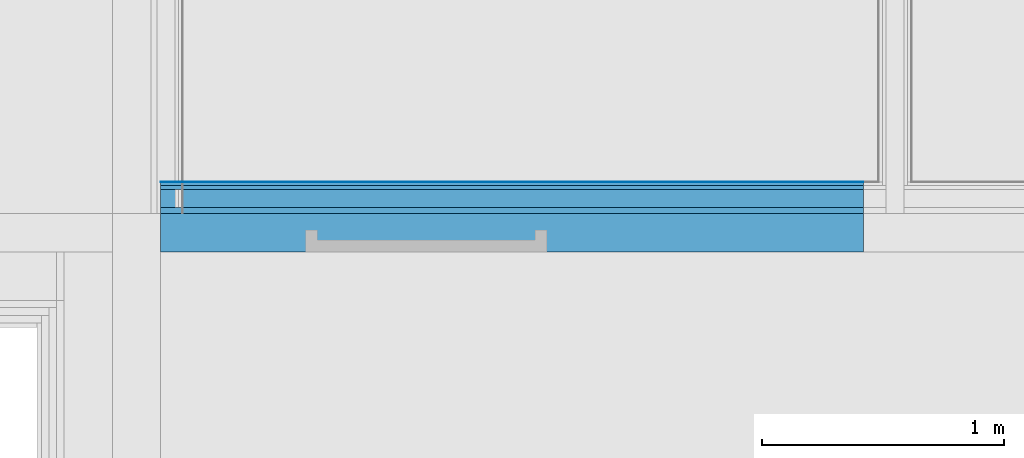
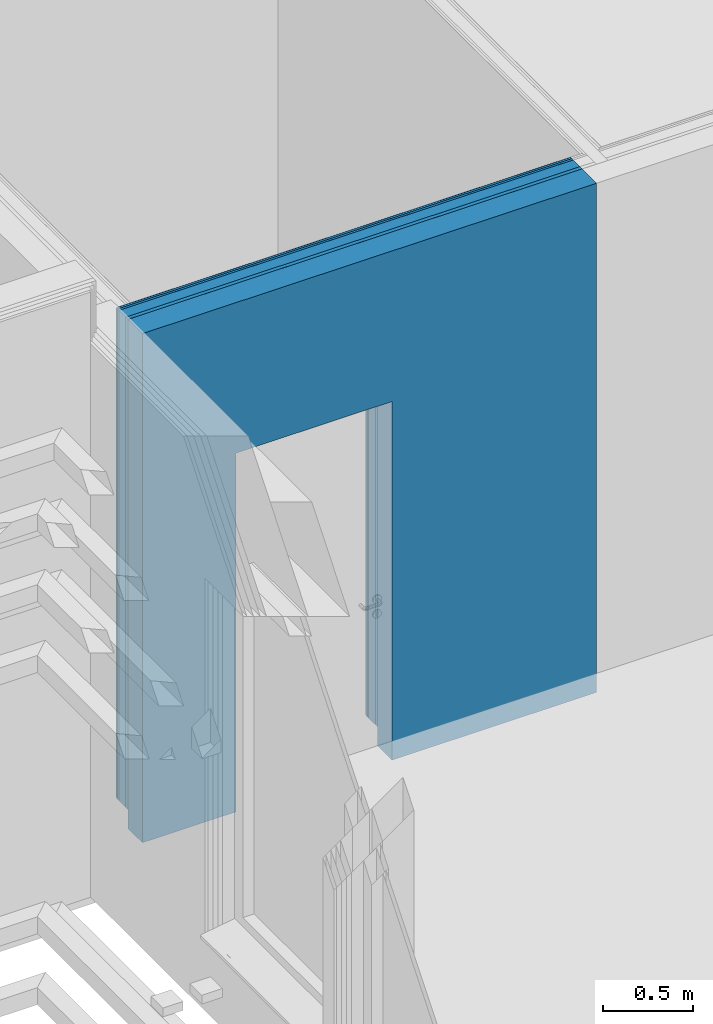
# One storey, part 86 of 139: 6 building element parts, 1 opening, 1 element without a shape of its own.
"""IFC2X3 building model written with IfcOpenShell, lengths in millimetres."""

from ifc_helpers import new_model, entity, si_unit, converted_unit, derived_unit, money_unit, direction, frame, origin_with_axes, place, context, subcontext, project, spatial, faceted_brep, material, type_object, element, aggregate, save


model = new_model("IFC2X3")

# Units and contexts
model_context = context("Model", 3, precision=0.01, world=origin_with_axes(), true_north=direction((0.0, 1.0)))
body_context = subcontext(model_context, "Body", "Model", "MODEL_VIEW")
ifc_project = project(units=[si_unit("LENGTHUNIT", "METRE", prefix="MILLI"), si_unit("AREAUNIT", "SQUARE_METRE"), si_unit("VOLUMEUNIT", "CUBIC_METRE"), converted_unit("PLANEANGLEUNIT", "DEGREE", entity("IfcPlaneAngleMeasure", 0.0174532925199), si_unit("PLANEANGLEUNIT", "RADIAN"), dimensions=[0, 0, 0, 0, 0, 0, 0]), money_unit("EUR"), converted_unit("TIMEUNIT", "Year", entity("IfcTimeMeasure", 31556926.0), si_unit("TIMEUNIT", "SECOND"), dimensions=[0, 0, 1, 0, 0, 0, 0]), si_unit("MASSUNIT", "GRAM", prefix="KILO"), si_unit("THERMODYNAMICTEMPERATUREUNIT", "DEGREE_CELSIUS"), si_unit("LUMINOUSINTENSITYUNIT", "LUMEN"), si_unit("ENERGYUNIT", "JOULE", prefix="MEGA"), derived_unit("THERMALCONDUCTANCEUNIT", [(si_unit("POWERUNIT", "WATT"), 1), (si_unit("LENGTHUNIT", "METRE"), -1), (si_unit("THERMODYNAMICTEMPERATUREUNIT", "KELVIN"), -1)]), derived_unit("SPECIFICHEATCAPACITYUNIT", [(si_unit("ENERGYUNIT", "JOULE"), 1), (si_unit("MASSUNIT", "GRAM", prefix="KILO"), -1), (si_unit("THERMODYNAMICTEMPERATUREUNIT", "KELVIN"), -1)]), derived_unit("MASSDENSITYUNIT", [(si_unit("MASSUNIT", "GRAM", prefix="KILO"), 1), (si_unit("VOLUMEUNIT", "CUBIC_METRE"), -1)])], contexts=[model_context])

# Site, building, storey
site_placement = place(None, origin_with_axes())
site = spatial("IfcSite", under=ifc_project, at=site_placement, Name="Kolde pst 67a", CompositionType="ELEMENT")
building_placement = place(site_placement, origin_with_axes())
building = spatial("IfcBuilding", under=site, at=building_placement, Name="Riigigümnaasium", CompositionType="ELEMENT")
storey_placement = place(building_placement, frame((0.0, 0.0, 4600.0), z_axis=(0.0, 0.0, 1.0), x_axis=(1.0, 0.0, 0.0)))
storey = spatial("IfcBuildingStorey", under=building, at=storey_placement, Name="2. korrus", CompositionType="ELEMENT", Elevation=4600.0)

# Wall, opening, building element parts
wall_type = type_object("IfcWallType", Name="SS-CLT-16/5_vill75+värv 52 dB 292", PredefinedType="NOTDEFINED")
wall_placement = place(storey_placement, frame((24240.0027342, 48039.9808308, -130.0), z_axis=(0.0, 0.0, 1.0), x_axis=(1.0, 0.0, 0.0)))
wall = element("IfcWall", 1, at=wall_placement, inside=storey, type_object=wall_type, Name="Sisesein")
opening_placement = place(wall_placement, frame((1100.0, 0.0, 130.0), z_axis=(0.0, 0.0, 1.0), x_axis=(1.0, 0.0, 0.0)))
element("IfcOpeningElement", 2, at=opening_placement, cuts=wall, Name="Siseuks", context=body_context, shape_type="Brep", body=[
    faceted_brep([(-500.0, 292.0, 2300.0), (-500.0, 292.0, 0.0), (-500.0, -584.0, 0.0), (-500.0, -584.0, 2300.0), (500.0, 292.0, 2300.0), (500.0, 292.0, 0.0), (500.0, -584.0, 0.0), (500.0, -584.0, 2300.0)], [[[0, 1, 2, 3]], [[0, 4, 5, 1]], [[1, 5, 6, 2]], [[3, 2, 6, 7]], [[4, 0, 3, 7]], [[5, 4, 7, 6]]]),
])
ifc_material_1 = material(Name="_VIIMISTLUSKIHT - viimistlus vastavalt SA osale")
building_element_part_1_placement = place(wall_placement, origin_with_axes())
building_element_part_1 = element("IfcBuildingElementPart", 3, at=building_element_part_1_placement, material=ifc_material_1, Name="_VIIMISTLUSKIHT - viimistlus vastavalt SA osale", context=body_context, shape_type="Brep", body=[
    faceted_brep([(600.0, 292.0, 2430.0), (600.0, 292.0, 130.0), (0.0, 292.0, 130.0), (0.0, 292.0, 3450.0), (2910.00084737, 292.0, 3450.0), (2910.00084737, 292.0, 130.0), (1600.0, 292.0, 130.0), (1600.0, 292.0, 2430.0), (600.0, 290.0, 2430.0), (600.0, 290.0, 130.0), (0.0, 290.0, 130.0), (0.0, 290.0, 3450.0), (2910.00084737, 290.0, 3450.0), (2910.00084737, 290.0, 130.0), (1600.0, 290.0, 130.0), (1600.0, 290.0, 2430.0)], [[[0, 1, 2, 3, 4, 5, 6, 7]], [[1, 0, 8, 9]], [[1, 9, 10, 2]], [[3, 2, 10, 11]], [[4, 3, 11, 12]], [[12, 13, 5, 4]], [[14, 6, 5, 13]], [[7, 6, 14, 15]], [[0, 7, 15, 8]], [[15, 14, 13, 12, 11, 10, 9, 8]]]),
])
ifc_material_2 = material(Name="_PLAATMATERJAL - tuletõkkekipsplaat, Knauf Red GKF või samaväärne")
building_element_part_2_placement = place(wall_placement, origin_with_axes())
building_element_part_2 = element("IfcBuildingElementPart", 4, at=building_element_part_2_placement, material=ifc_material_2, Name="_PLAATMATERJAL - tuletõkkekipsplaat, Knauf Red GKF või samaväärne", context=body_context, shape_type="Brep", body=[
    faceted_brep([(600.0, 290.0, 2430.0), (600.0, 290.0, 130.0), (600.0, 290.0, 127.0), (0.0, 290.0, 127.0), (0.0, 290.0, 3450.0), (2910.00084737, 290.0, 3450.0), (2910.00084737, 290.0, 127.0), (1600.0, 290.0, 127.0), (1600.0, 290.0, 130.0), (1600.0, 290.0, 2430.0), (600.0, 275.0, 2430.0), (600.0, 275.0, 130.0), (600.0, 275.0, 127.0), (0.0, 275.0, 127.0), (0.0, 275.0, 3450.0), (2910.00084737, 275.0, 3450.0), (2910.00084737, 275.0, 127.0), (1600.0, 275.0, 127.0), (1600.0, 275.0, 130.0), (1600.0, 275.0, 2430.0)], [[[0, 1, 2, 3, 4, 5, 6, 7, 8, 9]], [[1, 0, 10, 11]], [[1, 11, 12, 2]], [[12, 13, 3, 2]], [[4, 3, 13, 14]], [[5, 4, 14, 15]], [[15, 16, 6, 5]], [[7, 6, 16, 17]], [[18, 8, 7, 17]], [[9, 8, 18, 19]], [[0, 9, 19, 10]], [[19, 18, 17, 16, 15, 14, 13, 12, 11, 10]]]),
])
building_element_part_3_placement = place(wall_placement, origin_with_axes())
building_element_part_3 = element("IfcBuildingElementPart", 5, at=building_element_part_3_placement, material=ifc_material_2, Name="_PLAATMATERJAL - tuletõkkekipsplaat, Knauf Red GKF või samaväärne", context=body_context, shape_type="Brep", body=[
    faceted_brep([(600.0, 275.0, 2430.0), (600.0, 275.0, 130.0), (600.0, 275.0, 127.0), (0.0, 275.0, 127.0), (0.0, 275.0, 3450.0), (2910.00084737, 275.0, 3450.0), (2910.00084737, 275.0, 127.0), (1600.0, 275.0, 127.0), (1600.0, 275.0, 130.0), (1600.0, 275.0, 2430.0), (600.0, 260.0, 2430.0), (600.0, 260.0, 130.0), (600.0, 260.0, 127.0), (0.0, 260.0, 127.0), (0.0, 260.0, 3450.0), (2910.00084737, 260.0, 3450.0), (2910.00084737, 260.0, 127.0), (1600.0, 260.0, 127.0), (1600.0, 260.0, 130.0), (1600.0, 260.0, 2430.0)], [[[0, 1, 2, 3, 4, 5, 6, 7, 8, 9]], [[1, 0, 10, 11]], [[1, 11, 12, 2]], [[12, 13, 3, 2]], [[4, 3, 13, 14]], [[5, 4, 14, 15]], [[15, 16, 6, 5]], [[7, 6, 16, 17]], [[18, 8, 7, 17]], [[9, 8, 18, 19]], [[0, 9, 19, 10]], [[19, 18, 17, 16, 15, 14, 13, 12, 11, 10]]]),
])
ifc_material_3 = material(Name="_KARKASS - metallkarkass CW 75/50/06 ja UW 75/40/06, samm 600, vahel mineraalvill, helineeldetegur αw = 1.0,  ISOVER ACOUSTIC 75mm või samaväärne")
building_element_part_4_placement = place(wall_placement, origin_with_axes())
building_element_part_4 = element("IfcBuildingElementPart", 6, at=building_element_part_4_placement, material=ifc_material_3, Name="_KARKASS - metallkarkass CW 75/50/06 ja UW 75/40/06, samm 600, vahel mineraalvill, helineeldetegur αw = 1.0,  ISOVER ACOUSTIC 75mm või samaväärne", context=body_context, shape_type="Brep", body=[
    faceted_brep([(600.0, 260.0, 2430.0), (600.0, 260.0, 130.0), (600.0, 260.0, 127.0), (0.0, 260.0, 127.0), (0.0, 260.0, 3450.0), (2910.00084737, 260.0, 3450.0), (2910.00084737, 260.0, 127.0), (1600.0, 260.0, 127.0), (1600.0, 260.0, 130.0), (1600.0, 260.0, 2430.0), (600.0, 185.0, 2430.0), (600.0, 185.0, 130.0), (600.0, 185.0, 127.0), (0.0, 185.0, 127.0), (0.0, 185.0, 3450.0), (2910.00084737, 185.0, 3450.0), (2910.00084737, 185.0, 127.0), (1600.0, 185.0, 127.0), (1600.0, 185.0, 130.0), (1600.0, 185.0, 2430.0)], [[[0, 1, 2, 3, 4, 5, 6, 7, 8, 9]], [[1, 0, 10, 11]], [[1, 11, 12, 2]], [[12, 13, 3, 2]], [[4, 3, 13, 14]], [[5, 4, 14, 15]], [[15, 16, 6, 5]], [[7, 6, 16, 17]], [[18, 8, 7, 17]], [[9, 8, 18, 19]], [[0, 9, 19, 10]], [[19, 18, 17, 16, 15, 14, 13, 12, 11, 10]]]),
])
ifc_material_4 = material(Name="_ÕHKVAHE")
building_element_part_5_placement = place(wall_placement, origin_with_axes())
building_element_part_5 = element("IfcBuildingElementPart", 7, at=building_element_part_5_placement, material=ifc_material_4, Name="_ÕHKVAHE", context=body_context, shape_type="Brep", body=[
    faceted_brep([(600.0, 185.0, 2430.0), (600.0, 185.0, 130.0), (600.0, 185.0, 127.0), (0.0, 185.0, 127.0), (0.0, 185.0, 3450.0), (2910.00084737, 185.0, 3450.0), (2910.00084737, 185.0, 127.0), (1600.0, 185.0, 127.0), (1600.0, 185.0, 130.0), (1600.0, 185.0, 2430.0), (600.0, 160.0, 2430.0), (600.0, 160.0, 130.0), (600.0, 160.0, 127.0), (0.0, 160.0, 127.0), (0.0, 160.0, 3450.0), (2910.00084737, 160.0, 3450.0), (2910.00084737, 160.0, 127.0), (1600.0, 160.0, 127.0), (1600.0, 160.0, 130.0), (1600.0, 160.0, 2430.0)], [[[0, 1, 2, 3, 4, 5, 6, 7, 8, 9]], [[1, 0, 10, 11]], [[1, 11, 12, 2]], [[12, 13, 3, 2]], [[4, 3, 13, 14]], [[5, 4, 14, 15]], [[15, 16, 6, 5]], [[7, 6, 16, 17]], [[18, 8, 7, 17]], [[9, 8, 18, 19]], [[0, 9, 19, 10]], [[19, 18, 17, 16, 15, 14, 13, 12, 11, 10]]]),
])
ifc_material_5 = material(Name="_KANDETARIND - CLT ristkihtliimpuit vastavalt EK osale, CLT paigaldusvuugid teibitakse ROTHOBLAAS teibiga")
building_element_part_6_placement = place(wall_placement, origin_with_axes())
building_element_part_6 = element("IfcBuildingElementPart", 8, at=building_element_part_6_placement, material=ifc_material_5, Name="_KANDETARIND - CLT ristkihtliimpuit vastavalt EK osale, CLT paigaldusvuugid teibitakse ROTHOBLAAS teibiga", context=body_context, shape_type="Brep", body=[
    faceted_brep([(600.0, 160.0, 2430.0), (600.0, 160.0, 130.0), (600.0, 160.0, 0.0), (0.0, 160.0, 0.0), (0.0, 160.0, 3450.0), (2910.00084737, 160.0, 3450.0), (2910.00084737, 160.0, 0.0), (1600.0, 160.0, 0.0), (1600.0, 160.0, 130.0), (1600.0, 160.0, 2430.0), (600.0, 0.0, 2430.0), (600.0, 0.0, 130.0), (600.0, 0.0, 0.0), (0.0, 0.0, 0.0), (0.0, 0.0, 3450.0), (2910.00084737, 0.0, 3450.0), (2910.00084737, 0.0, 0.0), (1600.0, 0.0, 0.0), (1600.0, 0.0, 130.0), (1600.0, 0.0, 2430.0)], [[[0, 1, 2, 3, 4, 5, 6, 7, 8, 9]], [[1, 0, 10, 11]], [[1, 11, 12, 2]], [[12, 13, 3, 2]], [[4, 3, 13, 14]], [[5, 4, 14, 15]], [[15, 16, 6, 5]], [[7, 6, 16, 17]], [[18, 8, 7, 17]], [[9, 8, 18, 19]], [[0, 9, 19, 10]], [[19, 18, 17, 16, 15, 14, 13, 12, 11, 10]]]),
])
aggregate(wall, [building_element_part_1, building_element_part_2, building_element_part_3, building_element_part_4, building_element_part_5, building_element_part_6])

save(model, "model.ifc")
